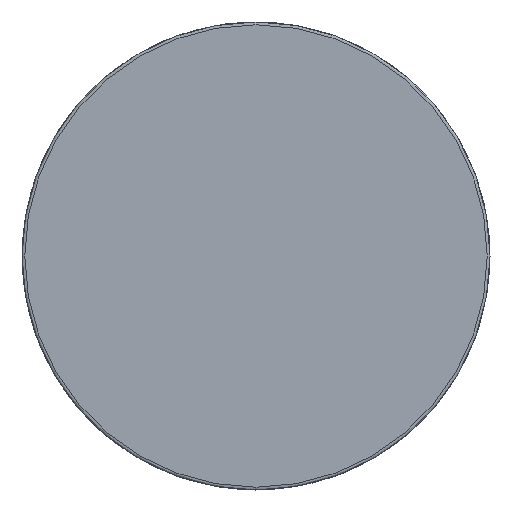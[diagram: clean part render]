
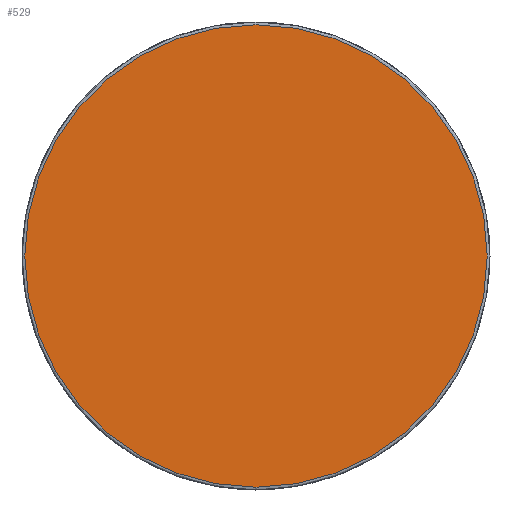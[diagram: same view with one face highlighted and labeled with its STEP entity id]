
A CAD part, left-side view. The second image highlights one B-rep face of the part: STEP entity #529.
In plain terms, the highlighted planar face has unit normal (-1, 0, 0).
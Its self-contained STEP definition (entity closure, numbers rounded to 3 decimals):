
#504=CARTESIAN_POINT('',(-691.681,-513.326,-69.426));
#505=DIRECTION('',(-1.0,0.0,0.0));
#506=DIRECTION('',(0.0,-1.0,0.0));
#507=AXIS2_PLACEMENT_3D('',#504,#505,#506);
#508=PLANE('',#507);
#509=CARTESIAN_POINT('',(-691.681,-604.126,-19.626));
#510=VERTEX_POINT('',#509);
#511=CARTESIAN_POINT('',(-691.681,-522.126,-19.626));
#512=VERTEX_POINT('',#511);
#513=CARTESIAN_POINT('',(-691.681,-563.126,-19.626));
#514=DIRECTION('',(-1.0,0.0,0.0));
#515=DIRECTION('',(0.0,-1.0,0.0));
#516=AXIS2_PLACEMENT_3D('',#513,#514,#515);
#517=CIRCLE('',#516,41.0);
#518=EDGE_CURVE('',#510,#512,#517,.T.);
#519=ORIENTED_EDGE('',*,*,#518,.T.);
#520=CARTESIAN_POINT('',(-691.681,-563.126,-19.626));
#521=DIRECTION('',(-1.0,0.0,0.0));
#522=DIRECTION('',(0.0,-1.0,0.0));
#523=AXIS2_PLACEMENT_3D('',#520,#521,#522);
#524=CIRCLE('',#523,41.0);
#525=EDGE_CURVE('',#512,#510,#524,.T.);
#526=ORIENTED_EDGE('',*,*,#525,.T.);
#527=EDGE_LOOP('',(#519,#526));
#528=FACE_OUTER_BOUND('',#527,.T.);
#529=ADVANCED_FACE('',(#528),#508,.T.);
